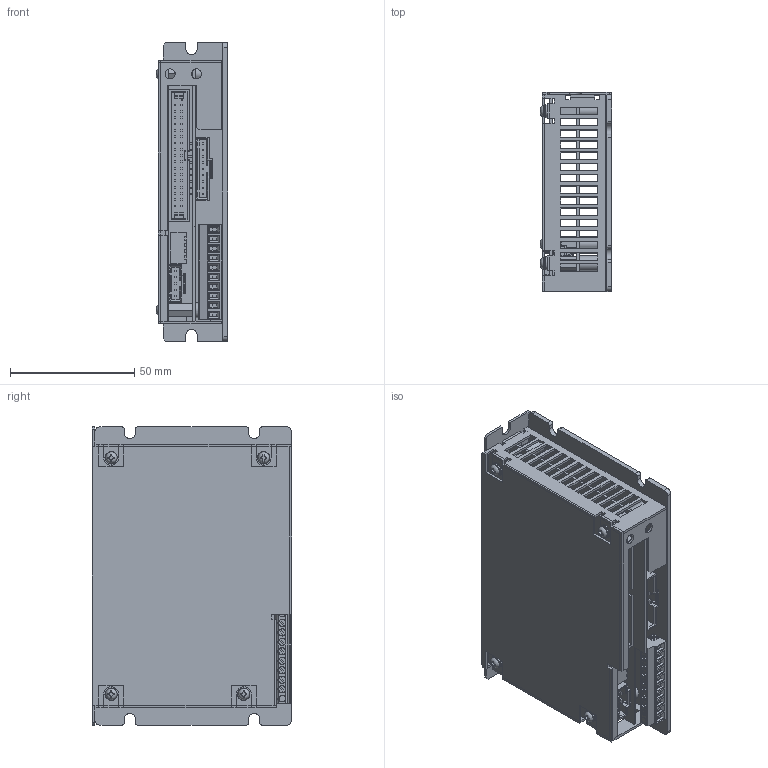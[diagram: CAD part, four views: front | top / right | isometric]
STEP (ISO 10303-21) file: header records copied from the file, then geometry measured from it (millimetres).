
FILE_DESCRIPTION(('HOOPS Exchange Step'),'2;1');
FILE_NAME('/tmp/34e1924086468779b3e0bc3542cfd54520210326-1-16jrga1.X_T.step','2021-03-26T02:17:33+00:00',('root'),('Unknown organisation'),'HOOPS Exchange 2021.0','HOOPS Exchange','Unknown authorisation');
FILE_SCHEMA( ('AUTOMOTIVE_DESIGN { 1 0 10303 214 1 1 1 1 }') );
Length unit declared in the file: millimetre
Products named in the file (1): 34e1924086468779b3e0bc3542cfd54520210326-1-16jrga1
Bounding box: 28.8 x 80 x 120 mm (x, y, z)
Volume: 37445.2 mm3; surface area: 95552.4 mm2
Topology: 68 solids, 1220 shells, 1810 faces, 7732 edges, 7162 vertices
Faces by surface type: plane 1491, cylinder 237, bspline 56, cone 22, torus 4
Full cylindrical faces by diameter (mm): 2 x6, 2.1 x2, 2.6 x12, 2.8 x4, 4 x4, 4.5 x8, 4.8 x4, 5 x4, 6 x4
Entity records: 83677 total; most frequent: CARTESIAN_POINT 20791, DIRECTION 10713, ORIENTED_EDGE 9300, EDGE_CURVE 7692, VERTEX_POINT 7162, VECTOR 6091, LINE 6091, AXIS2_PLACEMENT_3D 2311
